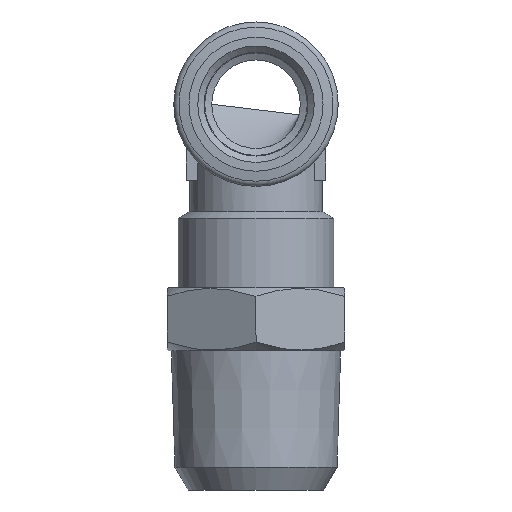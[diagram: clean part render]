
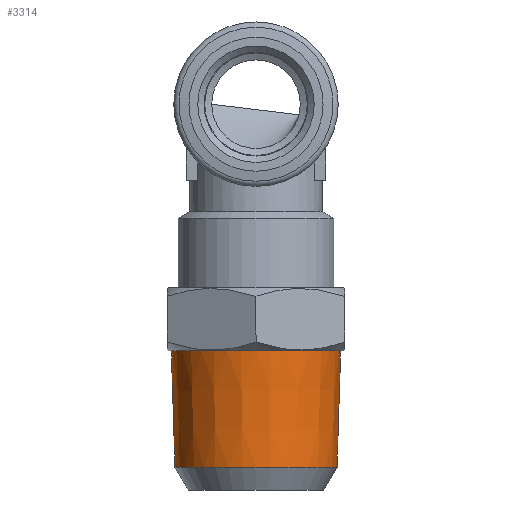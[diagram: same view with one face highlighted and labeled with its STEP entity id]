
A CAD part, left-side view. The second image highlights one B-rep face of the part: STEP entity #3314.
In plain terms, the highlighted conical face has half-angle 1.79 degrees and reference radius 6.694 mm.
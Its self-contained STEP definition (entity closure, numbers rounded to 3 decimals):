
#1675=ORIENTED_EDGE('',*,*,#2154,.F.);
#1676=ORIENTED_EDGE('',*,*,#2153,.F.);
#1951=CIRCLE('',#3093,6.694);
#1952=CIRCLE('',#3095,6.407);
#2035=VERTEX_POINT('',#3432);
#2036=VERTEX_POINT('',#3435);
#2153=EDGE_CURVE('',#2035,#2035,#1951,.T.);
#2154=EDGE_CURVE('',#2036,#2036,#1952,.T.);
#2292=EDGE_LOOP('',(#1675));
#2293=EDGE_LOOP('',(#1676));
#2466=FACE_BOUND('',#2292,.T.);
#2467=FACE_BOUND('',#2293,.T.);
#2654=DIRECTION('',(0.,1.,0.));
#2655=DIRECTION('',(0.,0.,-6.694));
#2656=DIRECTION('',(0.,1.,0.));
#2657=DIRECTION('',(0.,0.,1.));
#2658=DIRECTION('',(0.,-1.,0.));
#2659=DIRECTION('',(0.,0.,6.407));
#3093=AXIS2_PLACEMENT_3D('',#3433,#2654,#2655);
#3094=AXIS2_PLACEMENT_3D('',#3434,#2656,#2657);
#3095=AXIS2_PLACEMENT_3D('',#3436,#2658,#2659);
#3285=CONICAL_SURFACE('',#3094,6.694,1.79);
#3314=ADVANCED_FACE('',(#2466,#2467),#3285,.T.);
#3432=CARTESIAN_POINT('',(19.926,20.044,-6.694));
#3433=CARTESIAN_POINT('',(19.926,20.044,0.));
#3434=CARTESIAN_POINT('',(19.926,20.044,0.));
#3435=CARTESIAN_POINT('',(19.926,10.844,6.407));
#3436=CARTESIAN_POINT('',(19.926,10.844,0.));
